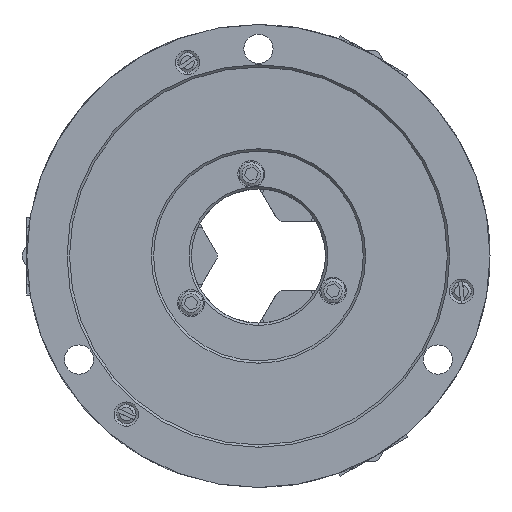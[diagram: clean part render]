
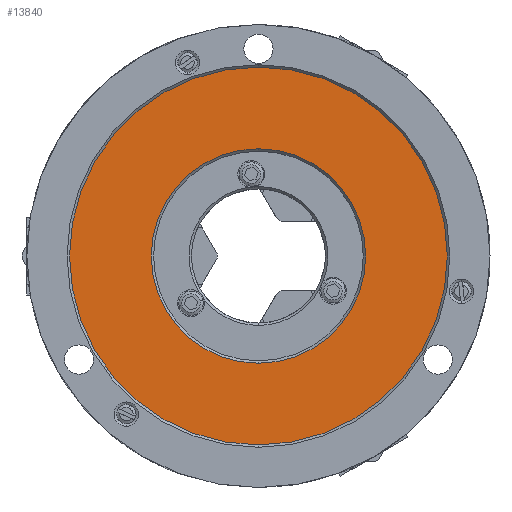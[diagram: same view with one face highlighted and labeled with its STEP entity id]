
A CAD part, left-side view. The second image highlights one B-rep face of the part: STEP entity #13840.
In plain terms, the highlighted planar face has unit normal (-1, 0, 0).
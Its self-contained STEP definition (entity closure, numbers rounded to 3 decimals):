
#223 = EDGE_CURVE ( 'NONE', #11001, #9157, #9410, .T. ) ;
#260 = EDGE_LOOP ( 'NONE', ( #2337, #12250 ) ) ;
#444 = ORIENTED_EDGE ( 'NONE', *, *, #223, .F. ) ;
#882 = EDGE_CURVE ( 'NONE', #10200, #11250, #13910, .T. ) ;
#887 = DIRECTION ( 'NONE',  ( 0., 0., -1. ) ) ;
#1150 = CARTESIAN_POINT ( 'NONE',  ( -70., 38.75, -67.117 ) ) ;
#1192 = CARTESIAN_POINT ( 'NONE',  ( -70., 0., 0. ) ) ;
#1663 = ORIENTED_EDGE ( 'NONE', *, *, #11807, .F. ) ;
#1954 = CARTESIAN_POINT ( 'NONE',  ( -70., 0., 0. ) ) ;
#2337 = ORIENTED_EDGE ( 'NONE', *, *, #13213, .T. ) ;
#2558 = CARTESIAN_POINT ( 'NONE',  ( -70., 0., 44. ) ) ;
#3174 = EDGE_LOOP ( 'NONE', ( #1663, #444 ) ) ;
#3600 = CARTESIAN_POINT ( 'NONE',  ( -70., 0., 0. ) ) ;
#4024 = AXIS2_PLACEMENT_3D ( 'NONE', #3600, #7463, #7146 ) ;
#4347 = CARTESIAN_POINT ( 'NONE',  ( -70., 0., 77.5 ) ) ;
#5921 = DIRECTION ( 'NONE',  ( 0., 0., 1. ) ) ;
#5962 = DIRECTION ( 'NONE',  ( 1., 0., 0. ) ) ;
#6732 = DIRECTION ( 'NONE',  ( 1., 0., 0. ) ) ;
#6999 = FACE_BOUND ( 'NONE', #260, .T. ) ;
#7146 = DIRECTION ( 'NONE',  ( 0., 0., -1. ) ) ;
#7463 = DIRECTION ( 'NONE',  ( 1., 0., 0. ) ) ;
#7870 = CIRCLE ( 'NONE', #11881, 44. ) ;
#8787 = CARTESIAN_POINT ( 'NONE',  ( -70., 0., -44. ) ) ;
#9147 = AXIS2_PLACEMENT_3D ( 'NONE', #12749, #14008, #15113 ) ;
#9157 = VERTEX_POINT ( 'NONE', #9968 ) ;
#9410 = CIRCLE ( 'NONE', #10918, 77.5 ) ;
#9968 = CARTESIAN_POINT ( 'NONE',  ( -70., 0., -77.5 ) ) ;
#10046 = CIRCLE ( 'NONE', #4024, 77.5 ) ;
#10200 = VERTEX_POINT ( 'NONE', #8787 ) ;
#10778 = DIRECTION ( 'NONE',  ( -1., 0., 0. ) ) ;
#10918 = AXIS2_PLACEMENT_3D ( 'NONE', #1192, #5962, #887 ) ;
#11001 = VERTEX_POINT ( 'NONE', #4347 ) ;
#11250 = VERTEX_POINT ( 'NONE', #2558 ) ;
#11669 = DIRECTION ( 'NONE',  ( 0., 0., -1. ) ) ;
#11782 = PLANE ( 'NONE',  #15400 ) ;
#11807 = EDGE_CURVE ( 'NONE', #9157, #11001, #10046, .T. ) ;
#11881 = AXIS2_PLACEMENT_3D ( 'NONE', #1954, #6732, #11669 ) ;
#12250 = ORIENTED_EDGE ( 'NONE', *, *, #882, .T. ) ;
#12749 = CARTESIAN_POINT ( 'NONE',  ( -70., 0., 0. ) ) ;
#13213 = EDGE_CURVE ( 'NONE', #11250, #10200, #7870, .T. ) ;
#13840 = ADVANCED_FACE ( 'NONE', ( #6999, #13911 ), #11782, .T. ) ;
#13910 = CIRCLE ( 'NONE', #9147, 44. ) ;
#13911 = FACE_OUTER_BOUND ( 'NONE', #3174, .T. ) ;
#14008 = DIRECTION ( 'NONE',  ( 1., 0., 0. ) ) ;
#15113 = DIRECTION ( 'NONE',  ( 0., 0., -1. ) ) ;
#15400 = AXIS2_PLACEMENT_3D ( 'NONE', #1150, #10778, #5921 ) ;
